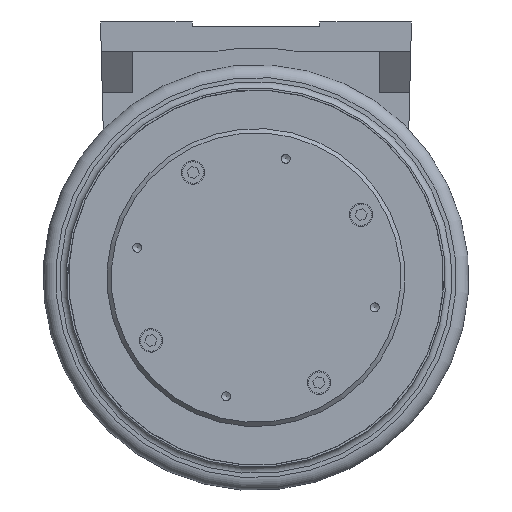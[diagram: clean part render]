
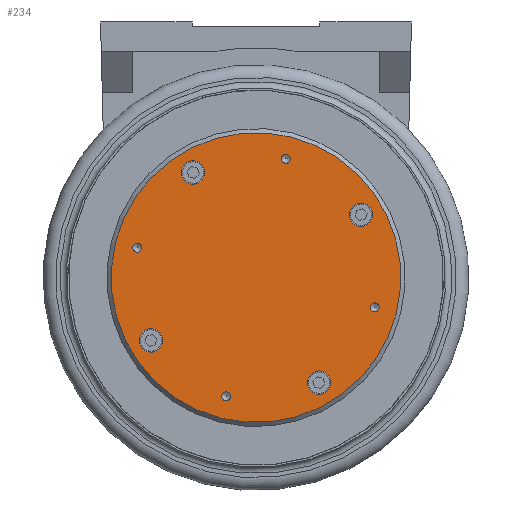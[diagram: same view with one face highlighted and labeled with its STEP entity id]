
A CAD part, front view. The second image highlights one B-rep face of the part: STEP entity #234.
In plain terms, the highlighted planar face has unit normal (0, -1, 0).
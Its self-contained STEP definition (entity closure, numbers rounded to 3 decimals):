
#234=ADVANCED_FACE('',(#1348,#1349,#1350,#1351,#1352,#1353,#1354,#1355,#1356),#1357,.T.);
#1348=FACE_OUTER_BOUND('',#3761,.T.);
#1349=FACE_BOUND('',#3762,.T.);
#1350=FACE_BOUND('',#3763,.T.);
#1351=FACE_BOUND('',#3764,.T.);
#1352=FACE_BOUND('',#3765,.T.);
#1353=FACE_BOUND('',#3766,.T.);
#1354=FACE_BOUND('',#3767,.T.);
#1355=FACE_BOUND('',#3768,.T.);
#1356=FACE_BOUND('',#3769,.T.);
#1357=PLANE('',#3770);
#3761=EDGE_LOOP('',(#7152));
#3762=EDGE_LOOP('',(#7153));
#3763=EDGE_LOOP('',(#7154));
#3764=EDGE_LOOP('',(#7155));
#3765=EDGE_LOOP('',(#7156));
#3766=EDGE_LOOP('',(#7157));
#3767=EDGE_LOOP('',(#7158));
#3768=EDGE_LOOP('',(#7159));
#3769=EDGE_LOOP('',(#7160));
#3770=AXIS2_PLACEMENT_3D('',#7161,#7162,#7163);
#7152=ORIENTED_EDGE('',*,*,#14547,.T.);
#7153=ORIENTED_EDGE('',*,*,#14548,.T.);
#7154=ORIENTED_EDGE('',*,*,#14549,.T.);
#7155=ORIENTED_EDGE('',*,*,#14550,.T.);
#7156=ORIENTED_EDGE('',*,*,#14551,.T.);
#7157=ORIENTED_EDGE('',*,*,#14552,.T.);
#7158=ORIENTED_EDGE('',*,*,#14553,.T.);
#7159=ORIENTED_EDGE('',*,*,#14546,.T.);
#7160=ORIENTED_EDGE('',*,*,#14554,.T.);
#7161=CARTESIAN_POINT('',(0.,-124.5,0.));
#7162=DIRECTION('',(0.,-1.0,0.));
#7163=DIRECTION('',(0.,0.,1.0));
#14546=EDGE_CURVE('',#17844,#17844,#17845,.T.);
#14547=EDGE_CURVE('',#17846,#17846,#17847,.T.);
#14548=EDGE_CURVE('',#17848,#17848,#17849,.T.);
#14549=EDGE_CURVE('',#17850,#17850,#17851,.T.);
#14550=EDGE_CURVE('',#17852,#17852,#17853,.T.);
#14551=EDGE_CURVE('',#17854,#17854,#17855,.T.);
#14552=EDGE_CURVE('',#17856,#17856,#17857,.T.);
#14553=EDGE_CURVE('',#17858,#17858,#17859,.T.);
#14554=EDGE_CURVE('',#17860,#17860,#17861,.T.);
#17844=VERTEX_POINT('',#22623);
#17845=CIRCLE('',#22624,5.5);
#17846=VERTEX_POINT('',#22625);
#17847=CIRCLE('',#22626,68.);
#17848=VERTEX_POINT('',#22627);
#17849=CIRCLE('',#22628,2.1);
#17850=VERTEX_POINT('',#22629);
#17851=CIRCLE('',#22630,2.1);
#17852=VERTEX_POINT('',#22631);
#17853=CIRCLE('',#22632,2.1);
#17854=VERTEX_POINT('',#22633);
#17855=CIRCLE('',#22634,2.1);
#17856=VERTEX_POINT('',#22635);
#17857=CIRCLE('',#22636,5.5);
#17858=VERTEX_POINT('',#22637);
#17859=CIRCLE('',#22638,5.5);
#17860=VERTEX_POINT('',#22639);
#17861=CIRCLE('',#22640,5.5);
#22623=CARTESIAN_POINT('',(-28.181,-124.5,54.677));
#22624=AXIS2_PLACEMENT_3D('',#28234,#28235,#28236);
#22625=CARTESIAN_POINT('',(-16.575,-124.5,-65.949));
#22626=AXIS2_PLACEMENT_3D('',#28237,#28238,#28239);
#22627=CARTESIAN_POINT('',(-57.802,-124.5,14.528));
#22628=AXIS2_PLACEMENT_3D('',#28240,#28241,#28242);
#22629=CARTESIAN_POINT('',(14.528,-124.5,57.802));
#22630=AXIS2_PLACEMENT_3D('',#28243,#28244,#28245);
#22631=CARTESIAN_POINT('',(57.802,-124.5,-14.528));
#22632=AXIS2_PLACEMENT_3D('',#28246,#28247,#28248);
#22633=CARTESIAN_POINT('',(-14.528,-124.5,-57.802));
#22634=AXIS2_PLACEMENT_3D('',#28249,#28250,#28251);
#22635=CARTESIAN_POINT('',(28.181,-124.5,-54.677));
#22636=AXIS2_PLACEMENT_3D('',#28252,#28253,#28254);
#22637=CARTESIAN_POINT('',(54.677,-124.5,28.181));
#22638=AXIS2_PLACEMENT_3D('',#28255,#28256,#28257);
#22639=CARTESIAN_POINT('',(-54.677,-124.5,-28.181));
#22640=AXIS2_PLACEMENT_3D('',#28258,#28259,#28260);
#28234=CARTESIAN_POINT('',(-29.522,-124.5,49.343));
#28235=DIRECTION('',(0.0,1.0,0.));
#28236=DIRECTION('',(0.244,0.,0.97));
#28237=CARTESIAN_POINT('',(0.,-124.5,0.));
#28238=DIRECTION('',(0.,-1.0,0.));
#28239=DIRECTION('',(-0.244,0.,-0.97));
#28240=CARTESIAN_POINT('',(-55.766,-124.5,14.016));
#28241=DIRECTION('',(0.,1.0,0.));
#28242=DIRECTION('',(-0.97,0.,0.244));
#28243=CARTESIAN_POINT('',(14.016,-124.5,55.766));
#28244=DIRECTION('',(0.,1.0,0.));
#28245=DIRECTION('',(0.244,0.,0.97));
#28246=CARTESIAN_POINT('',(55.766,-124.5,-14.016));
#28247=DIRECTION('',(0.,1.0,0.));
#28248=DIRECTION('',(0.97,0.,-0.244));
#28249=CARTESIAN_POINT('',(-14.016,-124.5,-55.766));
#28250=DIRECTION('',(0.,1.0,0.));
#28251=DIRECTION('',(-0.244,0.,-0.97));
#28252=CARTESIAN_POINT('',(29.522,-124.5,-49.343));
#28253=DIRECTION('',(0.0,1.0,0.));
#28254=DIRECTION('',(-0.244,0.,-0.97));
#28255=CARTESIAN_POINT('',(49.343,-124.5,29.522));
#28256=DIRECTION('',(0.0,1.0,0.));
#28257=DIRECTION('',(0.97,0.,-0.244));
#28258=CARTESIAN_POINT('',(-49.343,-124.5,-29.522));
#28259=DIRECTION('',(0.0,1.0,0.));
#28260=DIRECTION('',(-0.97,0.,0.244));
